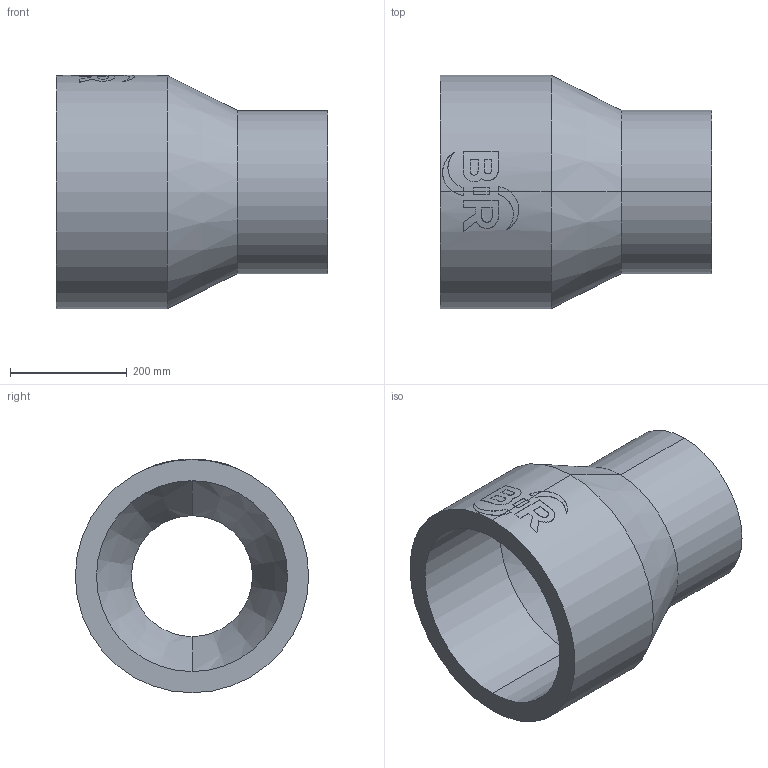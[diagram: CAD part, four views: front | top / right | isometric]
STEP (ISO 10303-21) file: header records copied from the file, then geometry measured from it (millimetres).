
FILE_DESCRIPTION (( 'STEP AP214' ), '1' );
FILE_NAME ('2323252215.STEP', '2018-07-20T11:38:03', ( '' ), ( '' ), 'SwSTEP 2.0', 'SolidWorks 2017', '' );
FILE_SCHEMA (( 'AUTOMOTIVE_DESIGN' ));
Length unit declared in the file: millimetre
Products named in the file (1): 2323252215
Bounding box: 465 x 400 x 400.46 mm (x, y, z)
Volume: 16779130.7 mm3; surface area: 994118.7 mm2
Topology: 1 solids, 1 shells, 63 faces, 160 edges, 104 vertices
Faces by surface type: cylinder 31, plane 28, cone 4
Entity records: 3476 total; most frequent: CARTESIAN_POINT 1267, ORIENTED_EDGE 320, DIRECTION 296, EDGE_CURVE 160, AXIS2_PLACEMENT_3D 112, VERTEX_POINT 104, LINE 72, VECTOR 72
